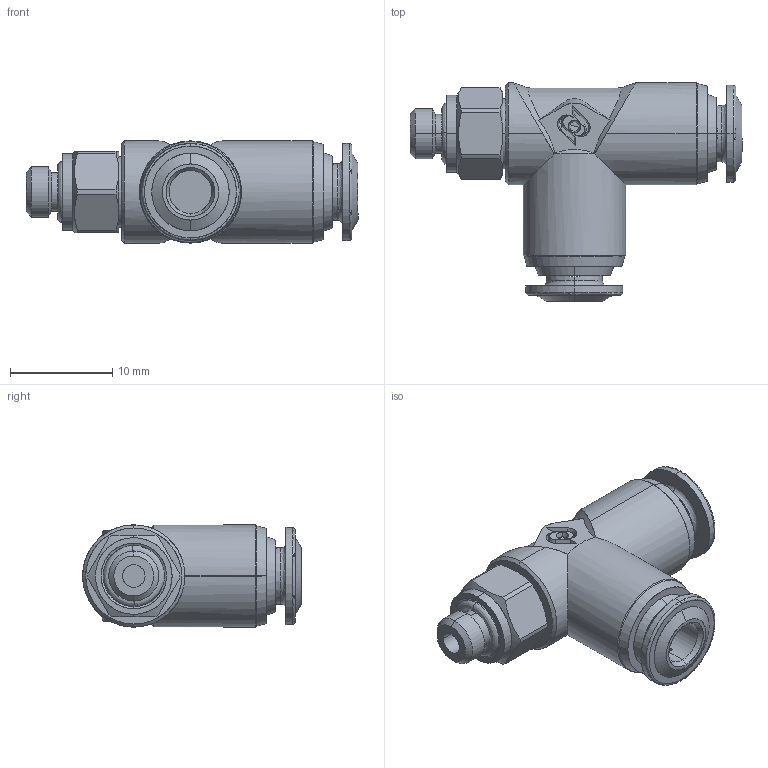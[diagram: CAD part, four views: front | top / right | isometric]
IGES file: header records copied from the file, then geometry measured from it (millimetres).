
Start section: SolidWorks IGES file using analytic representation for surfaces
Global section: file name: K:\Disegni Esecutivi\Serie 57000\ASSIEMI_57000\57226\ASSIEMI_PIENI_57226\5722600002.IGS; native system: SolidWorks 2008; preprocessor: SolidWorks 2008; author: cad02; date: 080211.165135; units: millimetre
Bounding box: 32.5 x 21.4 x 10 mm (x, y, z)
Surface area: 1798.1 mm2 (no closed solid volume)
Topology: 0 solids, 0 shells, 186 faces, 2691 edges, 2691 vertices
Faces by surface type: revolution 100, bspline 86
